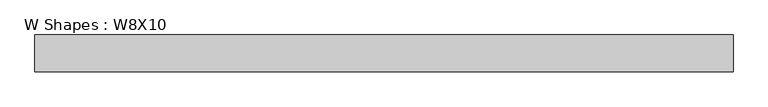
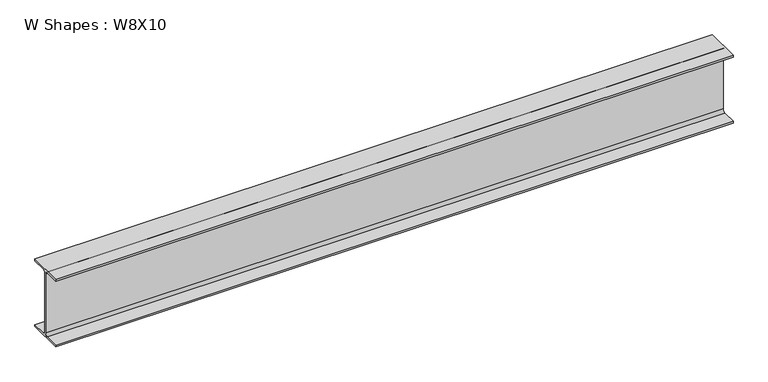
"""IFC4 building model written with IfcOpenShell, lengths in millimetres: beam geometry, W Shapes : W8X10."""

from ifc_helpers import new_model, si_unit, point, frame, frame_2d, origin, place, context, project, spatial, polyline, circle_curve, trimmed, segment, composite_curve, outline, extrude, source, transform, mapped, element, save


def w_shapes_w8x10_e2f7d50d(model_context):
    return source(origin(), model_context, "Body", "SweptSolid", [
        extrude(outline(composite_curve([segment(polyline([(50.038, -94.996), (50.038, -100.203), (-50.038, -100.203), (-50.038, -94.996), (-9.779, -94.996)]), True, "CONTINUOUS"), segment(trimmed(circle_curve(frame_2d((-9.779, -87.376)), 7.62), [point((-9.779, -94.996))], [point((-2.159, -87.376))], True, "CARTESIAN"), True, "CONTINUOUS"), segment(polyline([(-2.159, -87.376), (-2.159, 87.376)]), True, "CONTINUOUS"), segment(trimmed(circle_curve(frame_2d((-9.779, 87.376)), 7.62), [point((-2.159, 87.376))], [point((-9.779, 94.996))], True, "CARTESIAN"), True, "CONTINUOUS"), segment(polyline([(-9.779, 94.996), (-50.038, 94.996), (-50.038, 100.203), (50.038, 100.203), (50.038, 94.996), (9.779, 94.996)]), True, "CONTINUOUS"), segment(trimmed(circle_curve(frame_2d((9.779, 87.376)), 7.62), [point((9.779, 94.996))], [point((2.159, 87.376))], True, "CARTESIAN"), True, "CONTINUOUS"), segment(polyline([(2.159, 87.376), (2.159, -87.376)]), True, "CONTINUOUS"), segment(trimmed(circle_curve(frame_2d((9.779, -87.376)), 7.62), [point((2.159, -87.376))], [point((9.779, -94.996))], True, "CARTESIAN"), True, "CONTINUOUS"), segment(polyline([(9.779, -94.996), (50.038, -94.996)]), True, "CONTINUOUS")], self_intersect=False)), frame((-948.944, 0.0, 0.0), z_axis=(1.0, 0.0, 0.0), x_axis=(0.0, 1.0, 0.0)), (0.0, 0.0, 1.0), 1897.888),
    ])


if __name__ == "__main__":
    model = new_model("IFC4")
    model_context = context("Model", 3, world=origin())
    ifc_project = project(units=[si_unit("LENGTHUNIT", "METRE", prefix="MILLI")], contexts=[model_context])
    site = spatial("IfcSite", under=ifc_project)
    building = spatial("IfcBuilding", under=site)
    placement = place(None, origin())
    w_shapes_w8x10_shape = w_shapes_w8x10_e2f7d50d(model_context)
    element("IfcBeam", 1, ObjectType="W Shapes : W8X10", at=placement, inside=building, context=model_context, shape_type="MappedRepresentation", body=[
        mapped(w_shapes_w8x10_shape, transform((0.0, 0.0, 0.0), x_axis=(1.0, 0.0, 0.0), y_axis=(0.0, 1.0, 0.0), z_axis=(0.0, 0.0, 1.0))),
    ])
    save(model, "model.ifc")
